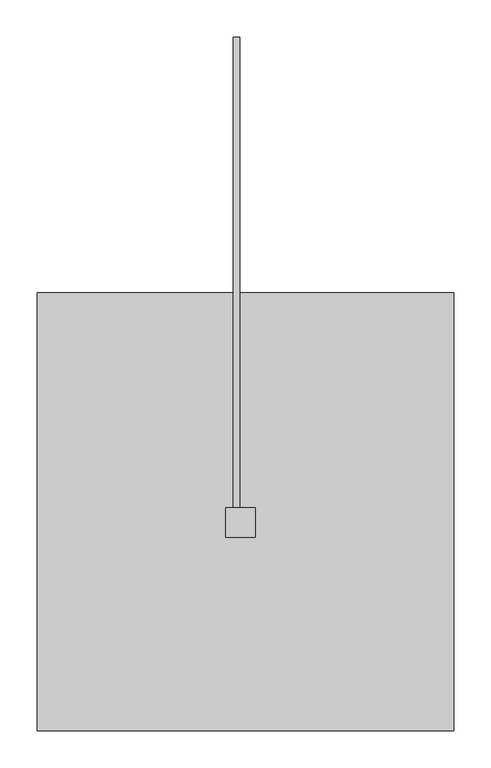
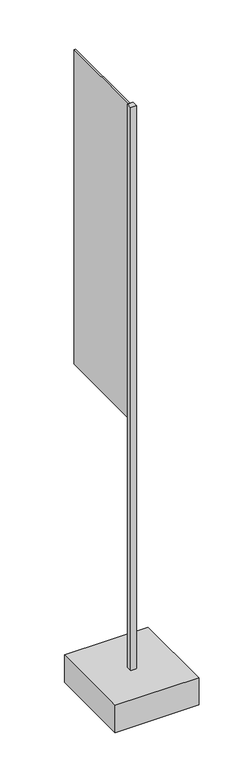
"""IFC4 building model written with IfcOpenShell, lengths in millimetres: furniture geometry, Fixierte Ausstattung Fahnenmast : Fahnenmast."""

import ifcopenshell
import ifcopenshell.guid

model = None  # the IFC model being written
_history = None  # IfcOwnerHistory: only IFC2X3 demands one
_inside = {}  # id of a spatial element -> (the spatial element, [elements in it])
_under = {}  # id of a project, library or spatial element -> (it, [spatial elements below it])
_declared = {}  # id of a project -> (the project, [libraries it declares])
_typed = {}  # id of a type object -> (the type object, [elements of that type])
_made_of = {}  # id of a material, layer set ... -> (it, [elements and type objects made of it])


def new_model(schema):
    """Start an empty IFC model of exactly this schema.

    Asked for "IFC4X3", IfcOpenShell would pick the latest addendum, in which some entities
    have other attributes; the version numbers below select the first issue.
    IFC2X3 requires an IfcOwnerHistory on every rooted entity: one is made here for all.
    """
    global model, _history
    if schema == "IFC4X3":
        model = ifcopenshell.file(schema_version=(4, 3, 0, 0))
    else:
        model = ifcopenshell.file(schema=schema)
    _inside.clear()
    _under.clear()
    _declared.clear()
    _typed.clear()
    _made_of.clear()
    _history = None
    if model.schema == "IFC2X3":
        org = make("IfcOrganization", Name="unknown")
        user = make(
            "IfcPersonAndOrganization",
            ThePerson=make("IfcPerson", FamilyName="unknown"),
            TheOrganization=org,
        )
        app = make(
            "IfcApplication",
            ApplicationDeveloper=org,
            Version="unknown",
            ApplicationFullName="unknown",
            ApplicationIdentifier="unknown",
        )
        _history = make(
            "IfcOwnerHistory",
            OwningUser=user,
            OwningApplication=app,
            ChangeAction="ADDED",
            CreationDate=0,
        )
    return model


def make(cls, **values):
    """One entity of the class cls with the attributes given. An attribute that is None is left unset."""
    return model.create_entity(
        cls, **{name: value for name, value in values.items() if value is not None}
    )


def rooted(cls, **values):
    """An entity with a GlobalId (a new one), such as an element, a storey or a relation."""
    return make(cls, GlobalId=ifcopenshell.guid.new(), OwnerHistory=_history, **values)


def si_unit(unit_type, name, prefix=None):
    """IfcSIUnit, for example si_unit("LENGTHUNIT", "METRE", prefix="MILLI")."""
    return make("IfcSIUnit", UnitType=unit_type, Prefix=prefix, Name=name)


def assignment(units):
    """IfcUnitAssignment: the units of a project."""
    return None if units is None else make("IfcUnitAssignment", Units=units)


def point(xyz):
    """IfcCartesianPoint."""
    return None if xyz is None else make("IfcCartesianPoint", Coordinates=xyz)


def direction(xyz):
    """IfcDirection."""
    return None if xyz is None else make("IfcDirection", DirectionRatios=xyz)


def frame(location, z_axis=None, x_axis=None):
    """IfcAxis2Placement3D, a coordinate frame: its origin and axes. An axis left out is left unset."""
    return make(
        "IfcAxis2Placement3D",
        Location=point(location),
        Axis=direction(z_axis),
        RefDirection=direction(x_axis),
    )


def origin():
    """The frame at (0, 0, 0) with its axes left unset."""
    return frame((0.0, 0.0, 0.0))


def origin_with_axes():
    """The frame at (0, 0, 0) with the z axis (0, 0, 1) and the x axis (1, 0, 0) written out."""
    return frame((0.0, 0.0, 0.0), z_axis=(0.0, 0.0, 1.0), x_axis=(1.0, 0.0, 0.0))


def place(relative_to, where):
    """IfcLocalPlacement: puts the frame where relative to a parent placement (None: the world)."""
    return make(
        "IfcLocalPlacement", PlacementRelTo=relative_to, RelativePlacement=where
    )


def context(
    kind, dimensions, precision=None, world=None, true_north=None, identifier=None
):
    """IfcGeometricRepresentationContext, for example the 3D "Model" context."""
    return make(
        "IfcGeometricRepresentationContext",
        ContextIdentifier=identifier,
        ContextType=kind,
        CoordinateSpaceDimension=dimensions,
        Precision=precision,
        WorldCoordinateSystem=world,
        TrueNorth=true_north,
    )


def project(units=None, contexts=None):
    """IfcProject with its units and contexts."""
    return rooted(
        "IfcProject",
        Name="project",
        RepresentationContexts=contexts,
        UnitsInContext=assignment(units),
    )


def spatial(cls, under=None, at=None, **own):
    """A site, building, storey or space (cls), placed at a placement, below another one or the project."""
    s = rooted(cls, ObjectPlacement=at, **own)
    if under is not None:
        _under.setdefault(under.id(), (under, []))[1].append(s)
    return s


def polyline(points):
    """IfcPolyline through the points."""
    return make("IfcPolyline", Points=[point(p) for p in points])


def outline(outer, holes=None, kind="AREA"):
    """IfcArbitraryClosedProfileDef: a profile drawn as a closed curve; with holes, ...WithVoids."""
    if holes is None:
        return make("IfcArbitraryClosedProfileDef", ProfileType=kind, OuterCurve=outer)
    return make(
        "IfcArbitraryProfileDefWithVoids",
        ProfileType=kind,
        OuterCurve=outer,
        InnerCurves=holes,
    )


def extrude(swept, where, along, depth):
    """IfcExtrudedAreaSolid: the profile swept, set in the frame where, extruded along a direction by depth."""
    return make(
        "IfcExtrudedAreaSolid",
        SweptArea=swept,
        Position=where,
        ExtrudedDirection=direction(along),
        Depth=depth,
    )


def shape(context_of_items, identifier, shape_type, items):
    """IfcShapeRepresentation: the items that make up one representation, for example the "Body"."""
    return make(
        "IfcShapeRepresentation",
        ContextOfItems=context_of_items,
        RepresentationIdentifier=identifier,
        RepresentationType=shape_type,
        Items=items,
    )


def source(mapping_origin, context_of_items, identifier, shape_type, items):
    """IfcRepresentationMap: a shape defined once, which mapped items show again and again."""
    return make(
        "IfcRepresentationMap",
        MappingOrigin=mapping_origin,
        MappedRepresentation=shape(context_of_items, identifier, shape_type, items),
    )


def transform(
    local_origin,
    x_axis=None,
    y_axis=None,
    z_axis=None,
    scale=None,
    scale2=None,
    scale3=None,
    uniform=True,
):
    """IfcCartesianTransformationOperator3D, or its non-uniform kind. x_axis, y_axis, z_axis: its Axis1, 2, 3."""
    if uniform:
        return make(
            "IfcCartesianTransformationOperator3D",
            Axis1=direction(x_axis),
            Axis2=direction(y_axis),
            LocalOrigin=point(local_origin),
            Scale=scale,
            Axis3=direction(z_axis),
        )
    return make(
        "IfcCartesianTransformationOperator3DnonUniform",
        Axis1=direction(x_axis),
        Axis2=direction(y_axis),
        LocalOrigin=point(local_origin),
        Scale=scale,
        Axis3=direction(z_axis),
        Scale2=scale2,
        Scale3=scale3,
    )


def mapped(mapping_source, mapping_target):
    """IfcMappedItem: shows the shape of a source again, moved by a transform."""
    return make(
        "IfcMappedItem", MappingSource=mapping_source, MappingTarget=mapping_target
    )


def made_of(thing, what):
    """Note that an element or type object is made of a material, layer set ...; save() writes the relation."""
    if what is not None:
        _made_of.setdefault(what.id(), (what, []))[1].append(thing)
    return thing


def element(
    cls,
    number,
    at=None,
    inside=None,
    cuts=None,
    type_object=None,
    material=None,
    context=None,
    identifier="Body",
    shape_type=None,
    held_by="IfcProductDefinitionShape",
    body=None,
    shapes=None,
    **own,
):
    """One element of the class cls, such as IfcWall. Its Tag is "e" and its number.

    at: its placement. inside: the storey or other place that contains it. cuts: it is an
    opening in that element (IfcRelVoidsElement). A single representation is given by context,
    identifier, shape_type and body (its items); several are given by shapes. held_by: the class
    of the entity that holds the representations. save() writes the other relations.
    """
    e = rooted(cls, Tag="e%d" % number, ObjectPlacement=at, **own)
    if body is not None:
        shapes = [shape(context, identifier, shape_type, body)]
    if shapes is not None:
        e.Representation = make(held_by, Representations=shapes)
    if inside is not None:
        _inside.setdefault(inside.id(), (inside, []))[1].append(e)
    if cuts is not None:
        rooted(
            "IfcRelVoidsElement", RelatingBuildingElement=cuts, RelatedOpeningElement=e
        )
    if type_object is not None:
        _typed.setdefault(type_object.id(), (type_object, []))[1].append(e)
    return made_of(e, material)


def aggregate(whole, parts):
    """IfcRelAggregates: a whole, such as a stair, and the parts it consists of."""
    return rooted("IfcRelAggregates", RelatingObject=whole, RelatedObjects=parts)


def save(model, path):
    """Write the relations noted so far, then the file.

    IfcRelAggregates (storeys below a building ...), IfcRelContainedInSpatialStructure (elements
    in a storey), IfcRelDefinesByType, IfcRelAssociatesMaterial and IfcRelDeclares: one each for
    every whole, place, type object, material and project.
    """
    for whole, parts in _under.values():
        aggregate(whole, parts)
    for where, things in _inside.values():
        rooted(
            "IfcRelContainedInSpatialStructure",
            RelatedElements=things,
            RelatingStructure=where,
        )
    for kind, things in _typed.values():
        rooted("IfcRelDefinesByType", RelatedObjects=things, RelatingType=kind)
    for what, things in _made_of.values():
        rooted("IfcRelAssociatesMaterial", RelatedObjects=things, RelatingMaterial=what)
    for by, libraries in _declared.values():
        rooted("IfcRelDeclares", RelatingContext=by, RelatedDefinitions=libraries)
    model.write(path)


def furniture_3b0ba110(model_context):
    return source(origin(), model_context, "Body", "SweptSolid", [
        extrude(outline(polyline([(288.2187937, 91.3966047), (288.2187937, -500.6211124), (-274.7812063, -500.6211124), (-274.7812063, 91.3966047), (288.2187937, 91.3966047)])), frame((0.0, 0.0, -192.7859963), z_axis=(0.0, 0.0, 1.0), x_axis=(1.0, 0.0, 0.0)), (0.0, 0.0, 1.0), 192.7859963),
        extrude(outline(polyline([(20.0, -240.0), (-20.0, -240.0), (-20.0, -200.0), (20.0, -200.0), (20.0, -240.0)])), origin_with_axes(), (0.0, 0.0, 1.0), 4000.0),
        extrude(outline(polyline([(-10.0, -200.0), (-10.0, 436.0), (-0.6277135, 436.0), (-0.6277135, -200.0), (-10.0, -200.0)])), frame((0.0, 0.0, 1764.0640071), z_axis=(0.0, 0.0, 1.0), x_axis=(1.0, 0.0, 0.0)), (0.0, 0.0, 1.0), 2235.9359929),
    ])


if __name__ == "__main__":
    model = new_model("IFC4")
    model_context = context("Model", 3, world=origin())
    ifc_project = project(units=[si_unit("LENGTHUNIT", "METRE", prefix="MILLI")], contexts=[model_context])
    site = spatial("IfcSite", under=ifc_project)
    building = spatial("IfcBuilding", under=site)
    placement = place(None, origin())
    furniture_shape = furniture_3b0ba110(model_context)
    element("IfcFurniture", 1, ObjectType="Fixierte Ausstattung Fahnenmast : Fahnenmast", at=placement, inside=building, context=model_context, shape_type="MappedRepresentation", body=[
        mapped(furniture_shape, transform((0.0, 0.0, 0.0), x_axis=(1.0, 0.0, 0.0), y_axis=(0.0, 1.0, 0.0), z_axis=(0.0, 0.0, 1.0))),
    ])
    save(model, "model.ifc")
